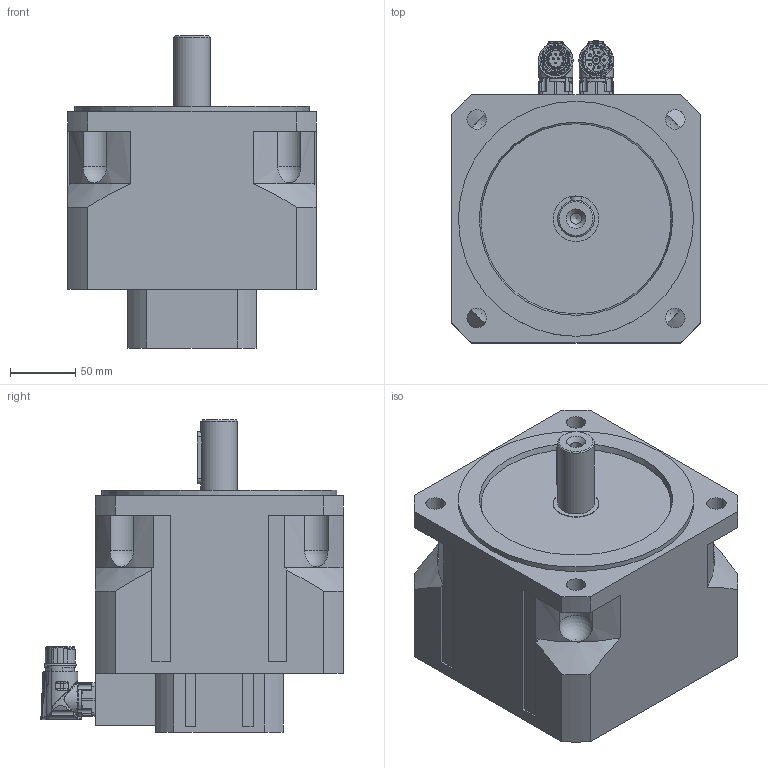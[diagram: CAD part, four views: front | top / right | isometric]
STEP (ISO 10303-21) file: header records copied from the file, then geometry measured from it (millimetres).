
FILE_DESCRIPTION((''),'2;1');
FILE_NAME('C:\PDF_output\N7028 02 P Z_3000_S4_S1.stp','2012-12-21T10:55:39',('oslejsek'),(''),'Autodesk Inventor 2013','Autodesk Inventor 2013','');
FILE_SCHEMA(('AUTOMOTIVE_DESIGN { 1 0 10303 214 1 1 1 1 }'));
Length unit declared in the file: millimetre
Products named in the file (8): N7028 02 P Z_3000_S4_S1; N7028 02 P_3000; BED_0201 Flansch 25x25  6-polig mit Stiften; 124953; 124888; AED_0201_12-polig, Stift; 127323
Assembly tree (7 placements, depth 3):
  N7028 02 P Z_3000_S4_S1
    N7028 02 P_3000
    BED_0201 Flansch 25x25  6-polig mit Stiften
      124953
      124888
    AED_0201_12-polig, Stift
      124888
      127323
Bounding box: 190 x 231.55 x 239 mm (x, y, z)
Volume: 5291605.9 mm3; surface area: 229838.6 mm2
Topology: 5 solids, 5 shells, 1074 faces, 2730 edges, 1712 vertices
Faces by surface type: cylinder 369, plane 303, bspline 258, cone 75, torus 45, sphere 24
Full cylindrical faces by diameter (mm): 1 x12, 1.18 x12, 1.2 x12, 2 x6, 2.15 x6, 2.7 x4, 3 x1, 3.1 x4, 3.2 x1, 4.5 x2, 5.5 x2, 5.9 x2, 8.376 x1, 15 x4, 15.2 x1, 17.4 x1, 17.955 x1, 19.8 x1, 20 x3, 20.1 x2, 20.8 x1, 21.15 x4, 21.6 x1, 21.8 x1, 21.9 x1, 24.4 x1, 28 x1, 35 x1, 180 x1
Entity records: 40679 total; most frequent: CARTESIAN_POINT 16160, ORIENTED_EDGE 5020, DIRECTION 4693, EDGE_CURVE 2510, AXIS2_PLACEMENT_3D 1898, VERTEX_POINT 1669, EDGE_LOOP 1321, FACE_OUTER_BOUND 1074
